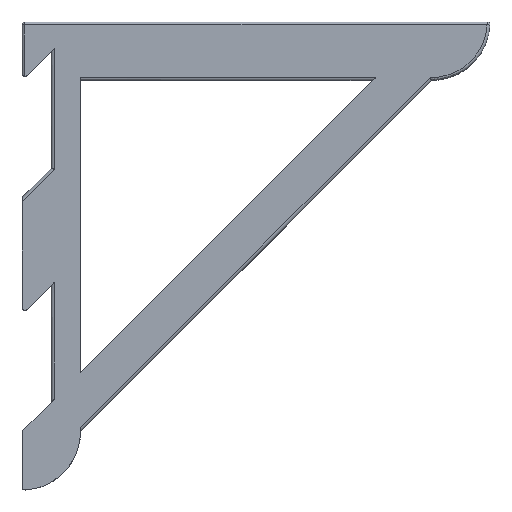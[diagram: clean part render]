
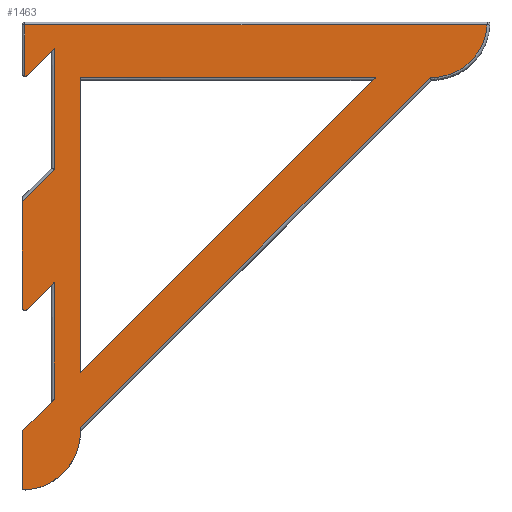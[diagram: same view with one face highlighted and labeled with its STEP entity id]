
A CAD part, top view. The second image highlights one B-rep face of the part: STEP entity #1463.
In plain terms, the highlighted planar face has unit normal (0, 0, 1).
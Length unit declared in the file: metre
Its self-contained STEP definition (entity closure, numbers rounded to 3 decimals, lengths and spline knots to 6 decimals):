
#88=CIRCLE('',#1560,0.0254);
#91=CIRCLE('',#1580,0.00127);
#92=CIRCLE('',#1581,0.00127);
#93=CIRCLE('',#1582,0.00127);
#94=CIRCLE('',#1583,0.02413);
#95=CIRCLE('',#1584,0.00127);
#295=ORIENTED_EDGE('',*,*,#712,.F.);
#296=ORIENTED_EDGE('',*,*,#738,.T.);
#297=ORIENTED_EDGE('',*,*,#739,.T.);
#298=ORIENTED_EDGE('',*,*,#660,.F.);
#299=ORIENTED_EDGE('',*,*,#740,.T.);
#300=ORIENTED_EDGE('',*,*,#723,.F.);
#301=ORIENTED_EDGE('',*,*,#741,.T.);
#302=ORIENTED_EDGE('',*,*,#729,.F.);
#303=ORIENTED_EDGE('',*,*,#742,.T.);
#304=ORIENTED_EDGE('',*,*,#731,.F.);
#305=ORIENTED_EDGE('',*,*,#743,.T.);
#306=ORIENTED_EDGE('',*,*,#693,.T.);
#307=ORIENTED_EDGE('',*,*,#744,.T.);
#308=ORIENTED_EDGE('',*,*,#745,.T.);
#309=ORIENTED_EDGE('',*,*,#746,.T.);
#310=ORIENTED_EDGE('',*,*,#747,.T.);
#311=ORIENTED_EDGE('',*,*,#748,.T.);
#312=ORIENTED_EDGE('',*,*,#749,.T.);
#313=ORIENTED_EDGE('',*,*,#736,.F.);
#314=ORIENTED_EDGE('',*,*,#685,.F.);
#660=EDGE_CURVE('',#886,#887,#1024,.T.);
#685=EDGE_CURVE('',#911,#907,#1031,.T.);
#693=EDGE_CURVE('',#914,#918,#88,.T.);
#712=EDGE_CURVE('',#935,#931,#1052,.T.);
#723=EDGE_CURVE('',#944,#940,#1062,.T.);
#729=EDGE_CURVE('',#948,#949,#1068,.T.);
#731=EDGE_CURVE('',#950,#951,#1069,.T.);
#736=EDGE_CURVE('',#907,#954,#1074,.T.);
#738=EDGE_CURVE('',#935,#955,#1075,.T.);
#739=EDGE_CURVE('',#955,#887,#1076,.F.);
#740=EDGE_CURVE('',#886,#940,#91,.T.);
#741=EDGE_CURVE('',#944,#949,#1077,.F.);
#742=EDGE_CURVE('',#948,#951,#92,.T.);
#743=EDGE_CURVE('',#950,#914,#93,.T.);
#744=EDGE_CURVE('',#918,#956,#1078,.F.);
#745=EDGE_CURVE('',#956,#957,#94,.T.);
#746=EDGE_CURVE('',#957,#958,#1079,.F.);
#747=EDGE_CURVE('',#958,#959,#1080,.F.);
#748=EDGE_CURVE('',#959,#931,#95,.T.);
#749=EDGE_CURVE('',#911,#954,#1081,.T.);
#886=VERTEX_POINT('',#2007);
#887=VERTEX_POINT('',#2008);
#907=VERTEX_POINT('',#2082);
#911=VERTEX_POINT('',#2089);
#914=VERTEX_POINT('',#2099);
#918=VERTEX_POINT('',#2110);
#931=VERTEX_POINT('',#2144);
#935=VERTEX_POINT('',#2151);
#940=VERTEX_POINT('',#2167);
#944=VERTEX_POINT('',#2174);
#948=VERTEX_POINT('',#2186);
#949=VERTEX_POINT('',#2188);
#950=VERTEX_POINT('',#2192);
#951=VERTEX_POINT('',#2193);
#954=VERTEX_POINT('',#2202);
#955=VERTEX_POINT('',#2206);
#956=VERTEX_POINT('',#2213);
#957=VERTEX_POINT('',#2215);
#958=VERTEX_POINT('',#2217);
#959=VERTEX_POINT('',#2219);
#1024=LINE('',#2006,#1128);
#1031=LINE('',#2090,#1135);
#1052=LINE('',#2152,#1156);
#1062=LINE('',#2175,#1166);
#1068=LINE('',#2187,#1172);
#1069=LINE('',#2191,#1173);
#1074=LINE('',#2201,#1178);
#1075=LINE('',#2205,#1179);
#1076=LINE('',#2207,#1180);
#1077=LINE('',#2209,#1181);
#1078=LINE('',#2212,#1182);
#1079=LINE('',#2216,#1183);
#1080=LINE('',#2218,#1184);
#1081=LINE('',#2221,#1185);
#1128=VECTOR('',#1672,1.);
#1135=VECTOR('',#1685,1.);
#1156=VECTOR('',#1730,1.);
#1166=VECTOR('',#1748,1.);
#1172=VECTOR('',#1758,1.);
#1173=VECTOR('',#1763,1.);
#1178=VECTOR('',#1770,1.);
#1179=VECTOR('',#1775,1.);
#1180=VECTOR('',#1776,1.);
#1181=VECTOR('',#1779,1.);
#1182=VECTOR('',#1784,1.);
#1183=VECTOR('',#1787,1.);
#1184=VECTOR('',#1788,1.);
#1185=VECTOR('',#1791,1.);
#1249=EDGE_LOOP('',(#295,#296,#297,#298,#299,#300,#301,#302,#303,#304,#305,
#306,#307,#308,#309,#310,#311));
#1250=EDGE_LOOP('',(#312,#313,#314));
#1347=FACE_BOUND('',#1249,.T.);
#1348=FACE_BOUND('',#1250,.T.);
#1442=PLANE('',#1579);
#1463=ADVANCED_FACE('',(#1347,#1348),#1442,.T.);
#1560=AXIS2_PLACEMENT_3D('',#2111,#1697,#1698);
#1579=AXIS2_PLACEMENT_3D('',#2204,#1773,#1774);
#1580=AXIS2_PLACEMENT_3D('',#2208,#1777,#1778);
#1581=AXIS2_PLACEMENT_3D('',#2210,#1780,#1781);
#1582=AXIS2_PLACEMENT_3D('',#2211,#1782,#1783);
#1583=AXIS2_PLACEMENT_3D('',#2214,#1785,#1786);
#1584=AXIS2_PLACEMENT_3D('',#2220,#1789,#1790);
#1672=DIRECTION('',(0.,1.,0.));
#1685=DIRECTION('',(0.,-1.,0.));
#1697=DIRECTION('',(0.,0.,1.));
#1698=DIRECTION('',(1.,0.,0.));
#1730=DIRECTION('',(-0.707,-0.707,0.));
#1748=DIRECTION('',(-0.707,-0.707,0.));
#1758=DIRECTION('',(0.707,0.707,0.));
#1763=DIRECTION('',(0.,1.,0.));
#1770=DIRECTION('',(0.707,0.707,0.));
#1773=DIRECTION('',(0.,0.,1.));
#1774=DIRECTION('',(1.,0.,0.));
#1775=DIRECTION('',(0.,-1.,0.));
#1776=DIRECTION('',(0.707,0.707,0.));
#1777=DIRECTION('',(0.,0.,1.));
#1778=DIRECTION('',(1.,0.,0.));
#1779=DIRECTION('',(0.,1.,0.));
#1780=DIRECTION('',(0.,0.,1.));
#1781=DIRECTION('',(1.,0.,0.));
#1782=DIRECTION('',(0.,0.,1.));
#1783=DIRECTION('',(1.,0.,0.));
#1784=DIRECTION('',(-0.707,-0.707,0.));
#1785=DIRECTION('',(0.,0.,1.));
#1786=DIRECTION('',(1.,0.,0.));
#1787=DIRECTION('',(1.,0.,0.));
#1788=DIRECTION('',(0.,1.,0.));
#1789=DIRECTION('',(0.,0.,1.));
#1790=DIRECTION('',(1.,0.,0.));
#1791=DIRECTION('',(1.,0.,0.));
#2006=CARTESIAN_POINT('',(-0.0127,0.00635,0.0254));
#2007=CARTESIAN_POINT('',(-0.0127,-0.022334,0.0254));
#2008=CARTESIAN_POINT('',(-0.0127,0.023604,0.0254));
#2082=CARTESIAN_POINT('',(0.0127,-0.0508,0.0254));
#2089=CARTESIAN_POINT('',(0.0127,0.07747,0.0254));
#2090=CARTESIAN_POINT('',(0.0127,-0.0254,0.0254));
#2099=CARTESIAN_POINT('',(-0.011363,-0.101565,0.0254));
#2110=CARTESIAN_POINT('',(0.012641,-0.074463,0.0254));
#2111=CARTESIAN_POINT('',(-0.0127,-0.0762,0.0254));
#2144=CARTESIAN_POINT('',(-0.010532,0.078368,0.0254));
#2151=CARTESIAN_POINT('',(0.00127,0.09017,0.0254));
#2152=CARTESIAN_POINT('',(-0.00635,0.08255,0.0254));
#2167=CARTESIAN_POINT('',(-0.010532,-0.023232,0.0254));
#2174=CARTESIAN_POINT('',(0.00127,-0.01143,0.0254));
#2175=CARTESIAN_POINT('',(-0.00635,-0.01905,0.0254));
#2186=CARTESIAN_POINT('',(-0.012328,-0.075828,0.0254));
#2187=CARTESIAN_POINT('',(-0.00635,-0.06985,0.0254));
#2188=CARTESIAN_POINT('',(0.00127,-0.06223,0.0254));
#2191=CARTESIAN_POINT('',(-0.0127,-0.0889,0.0254));
#2192=CARTESIAN_POINT('',(-0.0127,-0.100297,0.0254));
#2193=CARTESIAN_POINT('',(-0.0127,-0.076726,0.0254));
#2201=CARTESIAN_POINT('',(0.0762,0.0127,0.0254));
#2202=CARTESIAN_POINT('',(0.14097,0.07747,0.0254));
#2204=CARTESIAN_POINT('',(0.0889,0.,0.0254));
#2205=CARTESIAN_POINT('',(0.00127,0.0381,0.0254));
#2206=CARTESIAN_POINT('',(0.00127,0.037574,0.0254));
#2207=CARTESIAN_POINT('',(0.026298,0.062602,0.0254));
#2208=CARTESIAN_POINT('',(-0.01143,-0.022334,0.0254));
#2209=CARTESIAN_POINT('',(0.00127,0.,0.0254));
#2210=CARTESIAN_POINT('',(-0.01143,-0.076726,0.0254));
#2211=CARTESIAN_POINT('',(-0.01143,-0.100297,0.0254));
#2212=CARTESIAN_POINT('',(0.088002,0.000898,0.0254));
#2213=CARTESIAN_POINT('',(0.16458,0.077476,0.0254));
#2214=CARTESIAN_POINT('',(0.1651,0.1016,0.0254));
#2215=CARTESIAN_POINT('',(0.189197,0.10033,0.0254));
#2216=CARTESIAN_POINT('',(0.0889,0.10033,0.0254));
#2217=CARTESIAN_POINT('',(-0.01143,0.10033,0.0254));
#2218=CARTESIAN_POINT('',(-0.01143,0.,0.0254));
#2219=CARTESIAN_POINT('',(-0.01143,0.077996,0.0254));
#2220=CARTESIAN_POINT('',(-0.01143,0.079266,0.0254));
#2221=CARTESIAN_POINT('',(0.1397,0.07747,0.0254));
